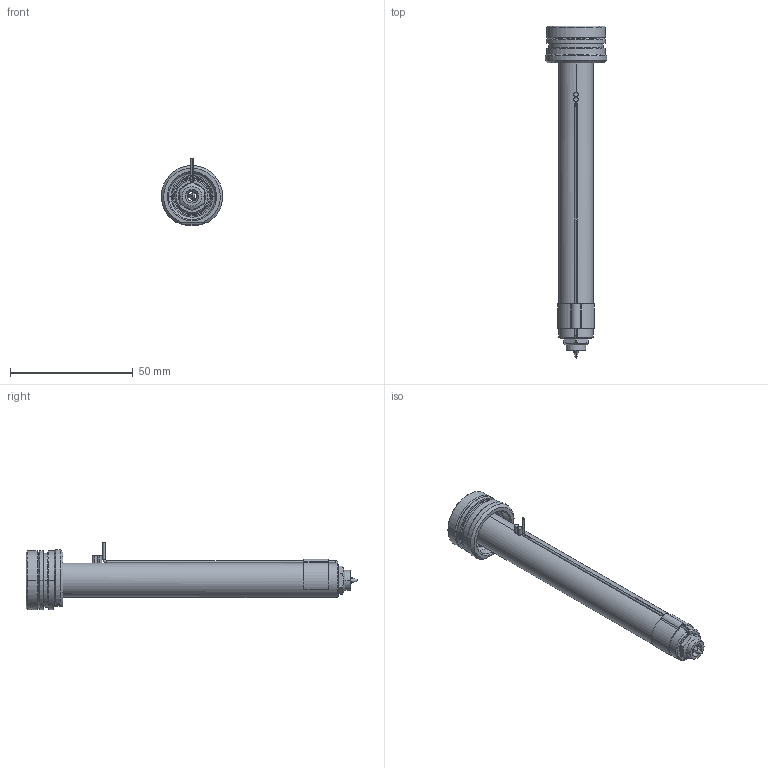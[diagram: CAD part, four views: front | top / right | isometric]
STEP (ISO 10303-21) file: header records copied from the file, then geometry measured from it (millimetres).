
FILE_DESCRIPTION((''),'2;1');
FILE_NAME('EO04_PG-BL_WR_120_SW','2024-02-19T10:59:58',('sundharh'),(''),'CREO PARAMETRIC BY PTC INC, 2023154','CREO PARAMETRIC BY PTC INC, 2023154','');
FILE_SCHEMA(('CONFIG_CONTROL_DESIGN'));
Length unit declared in the file: millimetre
Products named in the file (1): EO04_PG-BL_WR_120_SW
Bounding box: 24.99 x 135 x 27.5 mm (x, y, z)
Volume: 22105.2 mm3; surface area: 10973 mm2
Topology: 2 solids, 2 shells, 221 faces, 595 edges, 363 vertices
Faces by surface type: cylinder 84, plane 58, cone 44, torus 22, bspline 11, sphere 2
Entity records: 8250 total; most frequent: CARTESIAN_POINT 2668, DIRECTION 1211, ORIENTED_EDGE 1174, EDGE_CURVE 587, AXIS2_PLACEMENT_3D 507, VERTEX_POINT 363, CIRCLE 297, EDGE_LOOP 236
